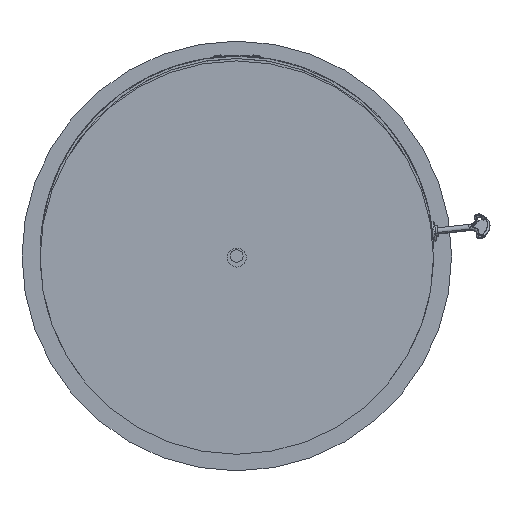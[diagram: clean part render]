
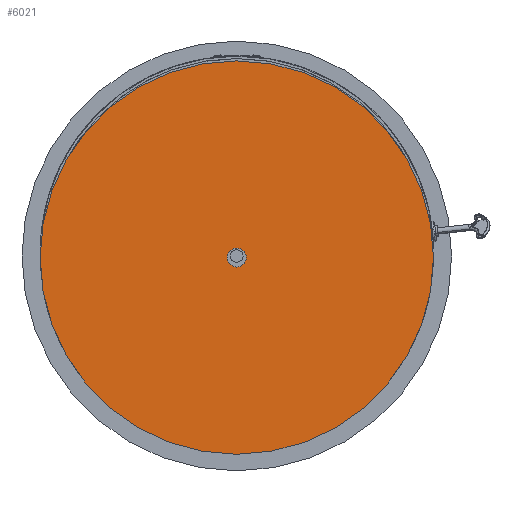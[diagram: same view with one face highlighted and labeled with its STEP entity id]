
A CAD part, front view. The second image highlights one B-rep face of the part: STEP entity #6021.
In plain terms, the highlighted planar face has unit normal (0, -1, 0).
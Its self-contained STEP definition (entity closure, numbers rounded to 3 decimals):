
#188 = CIRCLE ( 'NONE', #102849, 12. ) ;
#2139 = ORIENTED_EDGE ( 'NONE', *, *, #129565, .F. ) ;
#4073 = DIRECTION ( 'NONE',  ( 0., -1., 0. ) ) ;
#6021 = ADVANCED_FACE ( 'NONE', ( #86635, #112445 ), #169417, .T. ) ;
#21477 = DIRECTION ( 'NONE',  ( 0., 0., -1. ) ) ;
#25017 = ORIENTED_EDGE ( 'NONE', *, *, #61479, .F. ) ;
#33663 = DIRECTION ( 'NONE',  ( 0., -1., 0. ) ) ;
#35478 = CARTESIAN_POINT ( 'NONE',  ( 0., 0., 0. ) ) ;
#44368 = VERTEX_POINT ( 'NONE', #44824 ) ;
#44824 = CARTESIAN_POINT ( 'NONE',  ( 0., 0., -250. ) ) ;
#49979 = AXIS2_PLACEMENT_3D ( 'NONE', #35478, #33663, #175161 ) ;
#52243 = CARTESIAN_POINT ( 'NONE',  ( 0., 0., 0. ) ) ;
#61479 = EDGE_CURVE ( 'NONE', #133405, #44368, #122936, .T. ) ;
#72187 = DIRECTION ( 'NONE',  ( 0., 0., 1. ) ) ;
#72856 = DIRECTION ( 'NONE',  ( 0., -1., 0. ) ) ;
#76340 = AXIS2_PLACEMENT_3D ( 'NONE', #52243, #110116, #106465 ) ;
#80669 = EDGE_CURVE ( 'NONE', #161544, #138217, #105839, .T. ) ;
#84961 = AXIS2_PLACEMENT_3D ( 'NONE', #168512, #72856, #102234 ) ;
#86635 = FACE_BOUND ( 'NONE', #161152, .T. ) ;
#92184 = CARTESIAN_POINT ( 'NONE',  ( 0., 0., 0. ) ) ;
#102234 = DIRECTION ( 'NONE',  ( 0., 0., -1. ) ) ;
#102849 = AXIS2_PLACEMENT_3D ( 'NONE', #92184, #4073, #21477 ) ;
#105839 = CIRCLE ( 'NONE', #49979, 12. ) ;
#106465 = DIRECTION ( 'NONE',  ( 0., 0., 1. ) ) ;
#110116 = DIRECTION ( 'NONE',  ( 0., 1., 0. ) ) ;
#112445 = FACE_OUTER_BOUND ( 'NONE', #120139, .T. ) ;
#118626 = ORIENTED_EDGE ( 'NONE', *, *, #80669, .F. ) ;
#120139 = EDGE_LOOP ( 'NONE', ( #25017, #123416 ) ) ;
#122936 = CIRCLE ( 'NONE', #167044, 250. ) ;
#123416 = ORIENTED_EDGE ( 'NONE', *, *, #168529, .F. ) ;
#129565 = EDGE_CURVE ( 'NONE', #138217, #161544, #188, .T. ) ;
#133405 = VERTEX_POINT ( 'NONE', #148931 ) ;
#138217 = VERTEX_POINT ( 'NONE', #138878 ) ;
#138878 = CARTESIAN_POINT ( 'NONE',  ( 0., 0., 12. ) ) ;
#142907 = DIRECTION ( 'NONE',  ( 0., 1., 0. ) ) ;
#148931 = CARTESIAN_POINT ( 'NONE',  ( 0., 0., 250. ) ) ;
#155582 = CIRCLE ( 'NONE', #76340, 250. ) ;
#161152 = EDGE_LOOP ( 'NONE', ( #2139, #118626 ) ) ;
#161544 = VERTEX_POINT ( 'NONE', #169195 ) ;
#167044 = AXIS2_PLACEMENT_3D ( 'NONE', #172331, #142907, #72187 ) ;
#168512 = CARTESIAN_POINT ( 'NONE',  ( 0., 0., 0. ) ) ;
#168529 = EDGE_CURVE ( 'NONE', #44368, #133405, #155582, .T. ) ;
#169195 = CARTESIAN_POINT ( 'NONE',  ( 0., 0., -12. ) ) ;
#169417 = PLANE ( 'NONE',  #84961 ) ;
#172331 = CARTESIAN_POINT ( 'NONE',  ( 0., 0., 0. ) ) ;
#175161 = DIRECTION ( 'NONE',  ( 0., 0., -1. ) ) ;
